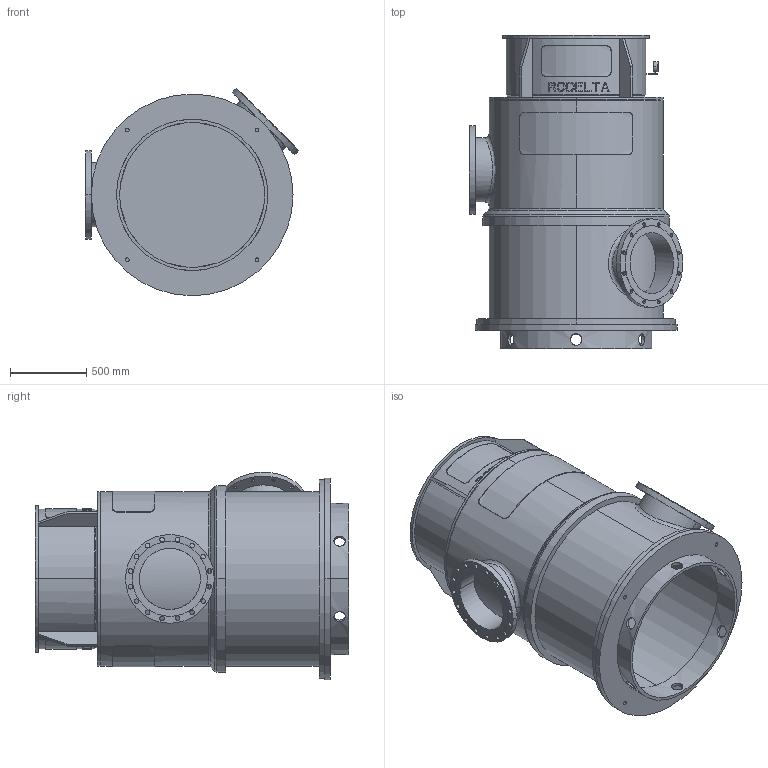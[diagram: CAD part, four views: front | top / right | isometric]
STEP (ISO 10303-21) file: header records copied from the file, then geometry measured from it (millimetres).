
FILE_DESCRIPTION((''),'2;1');
FILE_NAME('LS16_1TR_0GR','2023-08-23T',('Lyritlocal'),(''),'PRO/ENGINEER BY PARAMETRIC TECHNOLOGY CORPORATION, 2016360','PRO/ENGINEER BY PARAMETRIC TECHNOLOGY CORPORATION, 2016360','');
FILE_SCHEMA(('CONFIG_CONTROL_DESIGN'));
Length unit declared in the file: millimetre
Products named in the file (1): LS16_1TR_0GR
Bounding box: 1397.91 x 2052.5 x 1357.91 mm (x, y, z)
Volume: 171774450.9 mm3; surface area: 20406831 mm2
Topology: 3 solids, 3 shells, 564 faces, 1497 edges, 984 vertices
Faces by surface type: plane 346, cylinder 196, cone 14, bspline 4, torus 4
Entity records: 18979 total; most frequent: CARTESIAN_POINT 5157, ORIENTED_EDGE 2994, DIRECTION 2647, EDGE_CURVE 1497, AXIS2_PLACEMENT_3D 996, VERTEX_POINT 984, EDGE_LOOP 689, VECTOR 655
